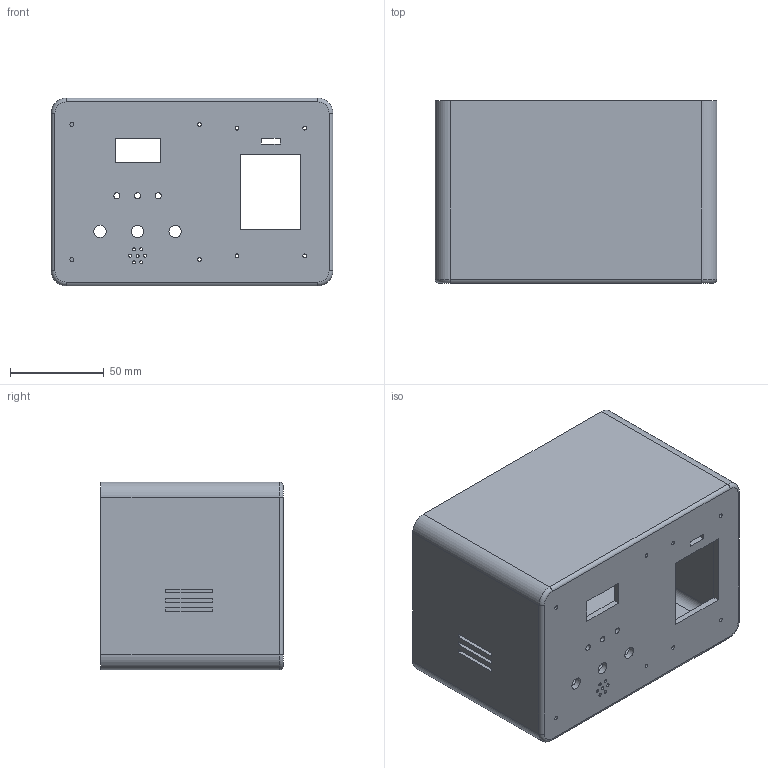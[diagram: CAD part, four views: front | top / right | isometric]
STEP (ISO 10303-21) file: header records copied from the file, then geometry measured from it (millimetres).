
FILE_DESCRIPTION(('Open CASCADE Model'),'2;1');
FILE_NAME('Open CASCADE Shape Model','2026-10-07T22:00:01',('Author'),( 'Open CASCADE'),'Open CASCADE STEP processor 7.9','Open CASCADE 7.9' ,'Unknown');
FILE_SCHEMA(('AUTOMOTIVE_DESIGN { 1 0 10303 214 1 1 1 1 }'));
Length unit declared in the file: millimetre
Products named in the file (1): Open CASCADE STEP translator 7.9 1
Bounding box: 150 x 97 x 100 mm (x, y, z)
Volume: 189528.1 mm3; surface area: 120920.9 mm2
Topology: 1 solids, 1 shells, 111 faces, 292 edges, 192 vertices
Faces by surface type: plane 63, cylinder 44, torus 4
Full cylindrical faces by diameter (mm): 1.6 x7, 2 x8, 2.6 x4, 3.2 x3, 3.4 x2, 6.5 x3, 8 x1
Entity records: 7408 total; most frequent: CARTESIAN_POINT 1708, DIRECTION 984, ORIENTED_EDGE 584, PCURVE 584, DEFINITIONAL_REPRESENTATION 584, LINE 560, VECTOR 560, EDGE_CURVE 292
